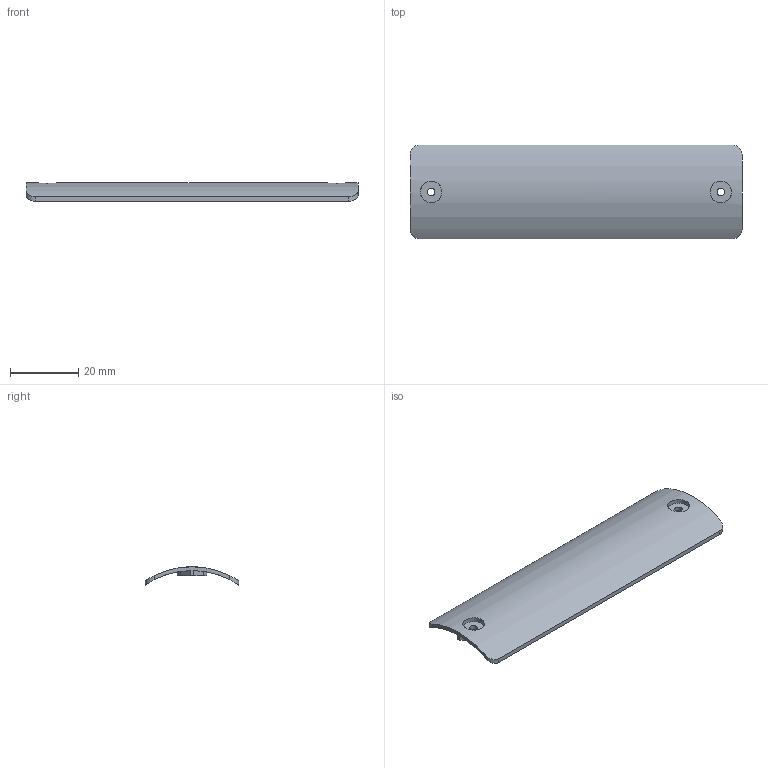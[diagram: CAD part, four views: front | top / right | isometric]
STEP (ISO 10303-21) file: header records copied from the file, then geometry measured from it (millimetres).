
FILE_DESCRIPTION(('SkyG Speed 120B - revision C7B-1 - 2026-10-09','HF-front-hatch'),'2;1');
FILE_NAME('HF-front-hatch_C7B-1','2026-10-09T15:13:01',('Author'),( 'Open CASCADE'),'Open CASCADE STEP processor 7.9','Open CASCADE 7.9' ,'Unknown');
FILE_SCHEMA(('AUTOMOTIVE_DESIGN { 1 0 10303 214 1 1 1 1 }'));
Length unit declared in the file: millimetre
Products named in the file (1): HF-front-hatch C7B-1
Bounding box: 97.4 x 27.4 x 5.42 mm (x, y, z)
Volume: 3212.5 mm3; surface area: 6107.9 mm2
Topology: 1 solids, 1 shells, 24 faces, 57 edges, 38 vertices
Faces by surface type: cylinder 12, plane 12
Full cylindrical faces by diameter (mm): 2.2 x2, 6.3 x2
Entity records: 2775 total; most frequent: CARTESIAN_POINT 1670, DIRECTION 180, ORIENTED_EDGE 114, PCURVE 114, DEFINITIONAL_REPRESENTATION 114, LINE 81, VECTOR 81, EDGE_CURVE 57
